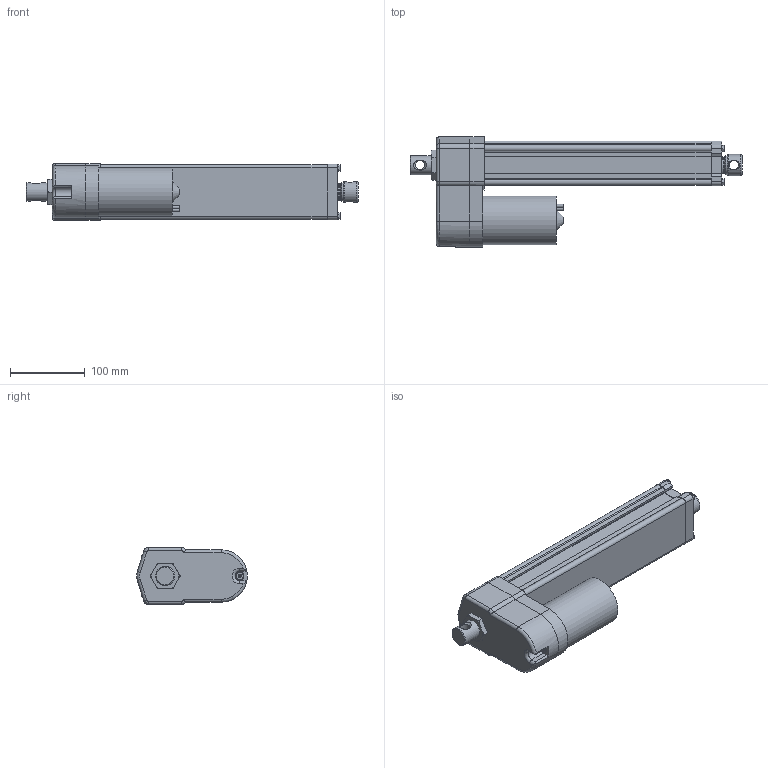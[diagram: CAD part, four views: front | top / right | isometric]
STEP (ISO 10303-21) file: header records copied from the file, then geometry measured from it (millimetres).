
FILE_DESCRIPTION( ( 'STEP AP203' ), '1' );
FILE_NAME( 'p:/temp/worker_332/temp/exporttempdir_432_726_abius/format_0/DA12-21B65M20M0N-AMM.stp', '2020-04-12T13:22:21', ( 'License CC BY-ND 4.0' ), ( 'CADENAS' ), ' ', 'PARTsolutions', ' ' );
FILE_SCHEMA( ( 'CONFIG_CONTROL_DESIGN' ) );
Length unit declared in the file: millimetre
Products named in the file (8): DA12-21B65M20M0N-AMM; _ELECTRAK-LA14-DA12-21B65MM0N-20M-EU-REAR; _Electrak-10-EU-RA-D602700; _D602768eu; _ELECTRAK-LA14-DA12--MOTOR; _DA12-21B65M20M0NAMMtube; _ELECTRAK-LA14-DA12--20-PLATE; _ELECTRAK-LA14-DA12--2021B65MNM-ROD
Assembly tree (7 placements, depth 2):
  DA12-21B65M20M0N-AMM
    _ELECTRAK-LA14-DA12-21B65MM0N-20M-EU-REAR
    _Electrak-10-EU-RA-D602700
    _D602768eu
    _ELECTRAK-LA14-DA12--MOTOR
    _DA12-21B65M20M0NAMMtube
    _ELECTRAK-LA14-DA12--20-PLATE
    _ELECTRAK-LA14-DA12--2021B65MNM-ROD
Bounding box: 443.95 x 148 x 76.2 mm (x, y, z)
Volume: 1521782.7 mm3; surface area: 342536.2 mm2
Topology: 7 solids, 8 shells, 378 faces, 942 edges, 610 vertices
Faces by surface type: plane 183, cylinder 131, cone 46, torus 14, bspline 4
Full cylindrical faces by diameter (mm): 4 x2, 4.126 x1, 4.8 x6, 5 x5, 5.6 x4, 7.878 x4, 9.398 x1, 12.2 x2, 16 x1, 21.8 x1, 25.2 x1, 25.4 x1, 26.24 x1, 28.5 x1, 28.6 x2, 47.625 x1, 65.3 x1
Entity records: 11834 total; most frequent: CARTESIAN_POINT 2729, DIRECTION 1869, ORIENTED_EDGE 1744, EDGE_CURVE 872, AXIS2_PLACEMENT_3D 702, VERTEX_POINT 602, EDGE_LOOP 485, LINE 465
